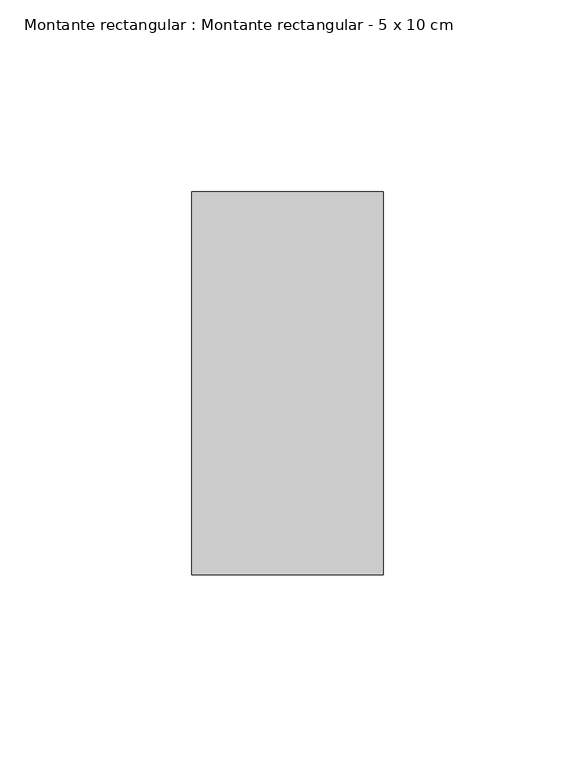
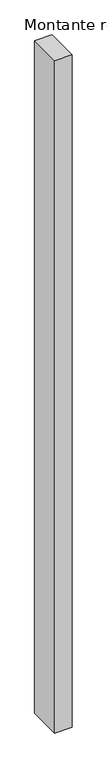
"""IFC4 building model written with IfcOpenShell, lengths in millimetres: member geometry, Montante rectangular : Montante rectangular - 5 x 10 cm."""

from ifc_helpers import new_model, si_unit, frame, origin, place, context, project, spatial, polyline, outline, extrude, source, transform, mapped, element, save


def montante_rectangular_montante_rectangular_5_x_10_cm_59e20bbb(model_context):
    return source(origin(), model_context, "Body", "SweptSolid", [
        extrude(outline(polyline([(25.0, 50.0), (25.0, -50.0), (-25.0, -50.0), (-25.0, 50.0), (25.0, 50.0)])), frame((0.0, 0.0, -2046.1603928), z_axis=(0.0, 0.0, 1.0), x_axis=(1.0, 0.0, 0.0)), (0.0, 0.0, 1.0), 2046.1603928),
    ])


if __name__ == "__main__":
    model = new_model("IFC4")
    model_context = context("Model", 3, world=origin())
    ifc_project = project(units=[si_unit("LENGTHUNIT", "METRE", prefix="MILLI")], contexts=[model_context])
    site = spatial("IfcSite", under=ifc_project)
    building = spatial("IfcBuilding", under=site)
    placement = place(None, origin())
    montante_rectangular_montante_rectangular_5_x_10_cm_shape = montante_rectangular_montante_rectangular_5_x_10_cm_59e20bbb(model_context)
    element("IfcMember", 1, ObjectType="Montante rectangular : Montante rectangular - 5 x 10 cm", at=placement, inside=building, context=model_context, shape_type="MappedRepresentation", body=[
        mapped(montante_rectangular_montante_rectangular_5_x_10_cm_shape, transform((0.0, 0.0, 0.0), x_axis=(1.0, 0.0, 0.0), y_axis=(0.0, 1.0, 0.0), z_axis=(0.0, 0.0, 1.0))),
    ])
    save(model, "model.ifc")
